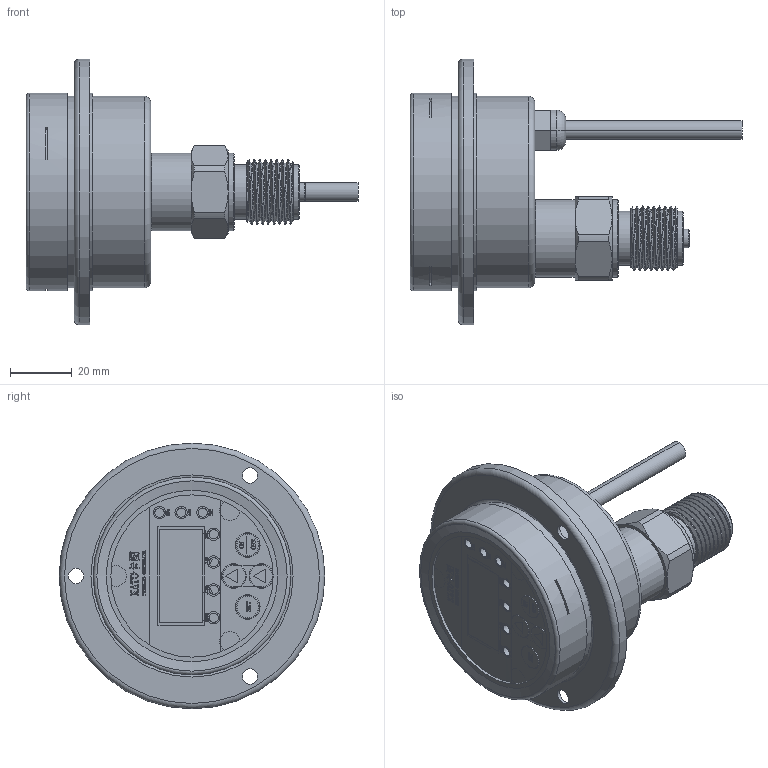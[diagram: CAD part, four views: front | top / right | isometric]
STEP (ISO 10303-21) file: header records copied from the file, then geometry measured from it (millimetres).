
FILE_DESCRIPTION( (''), '2;1');
FILE_NAME( 'PMKB_60mm_axial.step', '2026-09-19T13:44:22+08:00', (''), (''), '', '', '');
FILE_SCHEMA (('AP203_CONFIGURATION_CONTROLLED_3D_DESIGN_OF_MECHANICAL_PARTS_AND_ASSEMBLIES_MIM_LF { 1 0 10303 403 2 1 2}'));
Products named in the file (1): PMKB 60mm_axial
Bounding box: 107.36 x 85.9 x 85.9 mm (x, y, z)
Volume: 49058.2 mm3; surface area: 61364.5 mm2
Topology: 10 solids, 10 shells, 1549 faces, 4184 edges, 2773 vertices
Faces by surface type: plane 932, bspline 435, cylinder 132, cone 30, torus 20
Full cylindrical faces by diameter (mm): 3 x1, 5 x3, 6 x1, 7 x1, 10 x1, 12 x2, 17.5 x2, 19.1 x1, 21 x1, 22 x1, 25 x2, 52.5 x1, 54.7 x1, 59.9 x1, 61.9 x3, 63.9 x2, 83.9 x1, 85.9 x1
Entity records: 78251 total; most frequent: CARTESIAN_POINT 34616, ORIENTED_EDGE 8268, DIRECTION 5821, EDGE_CURVE 4134, LINE 2869, VECTOR 2869, VERTEX_POINT 2767, EDGE_LOOP 1781
